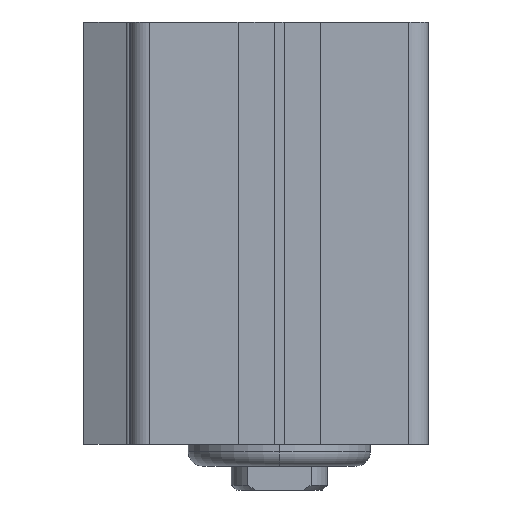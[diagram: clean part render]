
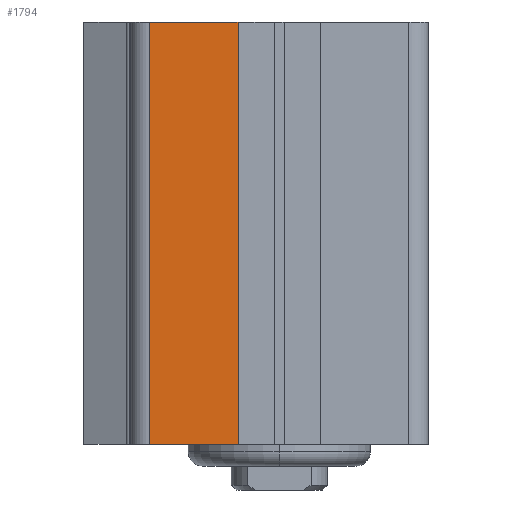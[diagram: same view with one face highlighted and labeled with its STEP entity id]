
A CAD part, left-side view. The second image highlights one B-rep face of the part: STEP entity #1794.
In plain terms, the highlighted planar face has unit normal (-1, 0, 0).
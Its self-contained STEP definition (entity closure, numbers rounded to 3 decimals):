
#213 = CARTESIAN_POINT ( 'NONE',  ( -31., 0., 88. ) ) ;
#958 = VERTEX_POINT ( 'NONE', #5662 ) ;
#1490 = LINE ( 'NONE', #213, #12029 ) ;
#1665 = CARTESIAN_POINT ( 'NONE',  ( -31., 8.6, 88. ) ) ;
#1794 = ADVANCED_FACE ( 'NONE', ( #11949 ), #6339, .T. ) ;
#2643 = CARTESIAN_POINT ( 'NONE',  ( -31., 27., 88. ) ) ;
#2681 = CARTESIAN_POINT ( 'NONE',  ( -31., 27., 88. ) ) ;
#3100 = CARTESIAN_POINT ( 'NONE',  ( -31., 0., 0. ) ) ;
#3119 = DIRECTION ( 'NONE',  ( 0., 1., 0. ) ) ;
#4548 = DIRECTION ( 'NONE',  ( 0., 1., 0. ) ) ;
#5466 = VECTOR ( 'NONE', #8378, 1000. ) ;
#5583 = ORIENTED_EDGE ( 'NONE', *, *, #11890, .F. ) ;
#5662 = CARTESIAN_POINT ( 'NONE',  ( -31., 8.6, 88. ) ) ;
#6028 = DIRECTION ( 'NONE',  ( 0., 0., -1. ) ) ;
#6339 = PLANE ( 'NONE',  #6994 ) ;
#6433 = CARTESIAN_POINT ( 'NONE',  ( -31., 27., 0. ) ) ;
#6776 = EDGE_CURVE ( 'NONE', #958, #8090, #1490, .T. ) ;
#6965 = ORIENTED_EDGE ( 'NONE', *, *, #9003, .F. ) ;
#6994 = AXIS2_PLACEMENT_3D ( 'NONE', #13242, #13303, #11928 ) ;
#7097 = VECTOR ( 'NONE', #4548, 1000. ) ;
#7974 = LINE ( 'NONE', #3100, #7097 ) ;
#8090 = VERTEX_POINT ( 'NONE', #2643 ) ;
#8378 = DIRECTION ( 'NONE',  ( 0., 0., -1. ) ) ;
#8889 = CARTESIAN_POINT ( 'NONE',  ( -31., 8.6, 0. ) ) ;
#9003 = EDGE_CURVE ( 'NONE', #10907, #14041, #7974, .T. ) ;
#9216 = LINE ( 'NONE', #2681, #5466 ) ;
#9430 = VECTOR ( 'NONE', #6028, 1000. ) ;
#10430 = ORIENTED_EDGE ( 'NONE', *, *, #11280, .T. ) ;
#10907 = VERTEX_POINT ( 'NONE', #8889 ) ;
#11280 = EDGE_CURVE ( 'NONE', #8090, #14041, #9216, .T. ) ;
#11890 = EDGE_CURVE ( 'NONE', #958, #10907, #13123, .T. ) ;
#11928 = DIRECTION ( 'NONE',  ( 0., -1., 0. ) ) ;
#11949 = FACE_OUTER_BOUND ( 'NONE', #16334, .T. ) ;
#12029 = VECTOR ( 'NONE', #3119, 1000. ) ;
#13123 = LINE ( 'NONE', #1665, #9430 ) ;
#13242 = CARTESIAN_POINT ( 'NONE',  ( -31., 0., 88. ) ) ;
#13303 = DIRECTION ( 'NONE',  ( -1., 0., 0. ) ) ;
#14041 = VERTEX_POINT ( 'NONE', #6433 ) ;
#16334 = EDGE_LOOP ( 'NONE', ( #6965, #5583, #18133, #10430 ) ) ;
#18133 = ORIENTED_EDGE ( 'NONE', *, *, #6776, .T. ) ;
